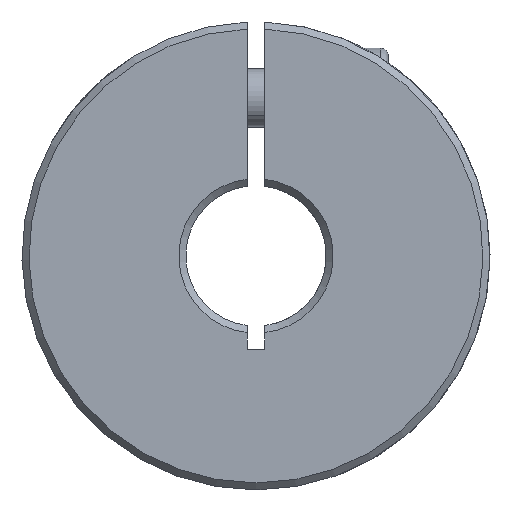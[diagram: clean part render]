
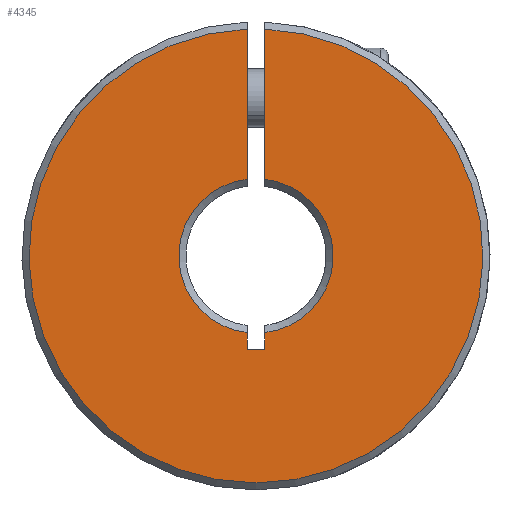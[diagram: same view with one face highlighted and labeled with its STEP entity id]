
A CAD part, front view. The second image highlights one B-rep face of the part: STEP entity #4345.
In plain terms, the highlighted planar face has unit normal (0, -1, 0).
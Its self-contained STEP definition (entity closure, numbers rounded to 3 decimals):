
#13 = VERTEX_POINT ( 'NONE', #1708 ) ;
#70 = AXIS2_PLACEMENT_3D ( 'NONE', #1586, #2163, #168 ) ;
#168 = DIRECTION ( 'NONE',  ( 0., 0., 1. ) ) ;
#176 = EDGE_CURVE ( 'NONE', #885, #1938, #5689, .T. ) ;
#249 = ORIENTED_EDGE ( 'NONE', *, *, #3473, .T. ) ;
#291 = ORIENTED_EDGE ( 'NONE', *, *, #5237, .T. ) ;
#392 = CARTESIAN_POINT ( 'NONE',  ( -0.75, -25., -8. ) ) ;
#402 = CARTESIAN_POINT ( 'NONE',  ( 0., -25., 0. ) ) ;
#464 = VERTEX_POINT ( 'NONE', #1106 ) ;
#588 = DIRECTION ( 'NONE',  ( 0., 0., 1. ) ) ;
#845 = VERTEX_POINT ( 'NONE', #4205 ) ;
#885 = VERTEX_POINT ( 'NONE', #1126 ) ;
#975 = EDGE_CURVE ( 'NONE', #464, #1183, #5548, .T. ) ;
#1021 = ORIENTED_EDGE ( 'NONE', *, *, #2916, .T. ) ;
#1106 = CARTESIAN_POINT ( 'NONE',  ( 0.75, -25., -8. ) ) ;
#1126 = CARTESIAN_POINT ( 'NONE',  ( -0.75, -25., -6.557 ) ) ;
#1148 = VECTOR ( 'NONE', #5105, 1000. ) ;
#1183 = VERTEX_POINT ( 'NONE', #392 ) ;
#1222 = DIRECTION ( 'NONE',  ( 0., 0., 1. ) ) ;
#1229 = AXIS2_PLACEMENT_3D ( 'NONE', #1365, #2311, #2337 ) ;
#1365 = CARTESIAN_POINT ( 'NONE',  ( 0., -25., 0. ) ) ;
#1466 = ORIENTED_EDGE ( 'NONE', *, *, #3504, .T. ) ;
#1504 = CARTESIAN_POINT ( 'NONE',  ( 0.75, -25., -8. ) ) ;
#1520 = CARTESIAN_POINT ( 'NONE',  ( -0.75, -25., -8. ) ) ;
#1555 = ORIENTED_EDGE ( 'NONE', *, *, #4757, .T. ) ;
#1586 = CARTESIAN_POINT ( 'NONE',  ( 0., -25., 0. ) ) ;
#1625 = VECTOR ( 'NONE', #4600, 1000. ) ;
#1701 = VECTOR ( 'NONE', #5239, 1000. ) ;
#1708 = CARTESIAN_POINT ( 'NONE',  ( 0.75, -25., 6.557 ) ) ;
#1721 = PLANE ( 'NONE',  #2974 ) ;
#1730 = EDGE_CURVE ( 'NONE', #845, #13, #2792, .T. ) ;
#1938 = VERTEX_POINT ( 'NONE', #4975 ) ;
#2022 = LINE ( 'NONE', #1520, #4288 ) ;
#2157 = ORIENTED_EDGE ( 'NONE', *, *, #1730, .T. ) ;
#2163 = DIRECTION ( 'NONE',  ( 0., 1., 0. ) ) ;
#2311 = DIRECTION ( 'NONE',  ( 0., -1., 0. ) ) ;
#2337 = DIRECTION ( 'NONE',  ( 0., 0., 1. ) ) ;
#2367 = CARTESIAN_POINT ( 'NONE',  ( -0.75, -25., -8. ) ) ;
#2595 = ORIENTED_EDGE ( 'NONE', *, *, #975, .T. ) ;
#2721 = DIRECTION ( 'NONE',  ( 0., 1., 0. ) ) ;
#2792 = LINE ( 'NONE', #3366, #1625 ) ;
#2916 = EDGE_CURVE ( 'NONE', #13, #3788, #4927, .T. ) ;
#2974 = AXIS2_PLACEMENT_3D ( 'NONE', #402, #2721, #1222 ) ;
#3008 = CARTESIAN_POINT ( 'NONE',  ( 0.75, -25., -6.557 ) ) ;
#3366 = CARTESIAN_POINT ( 'NONE',  ( 0.75, -25., -8. ) ) ;
#3473 = EDGE_CURVE ( 'NONE', #1938, #5742, #2022, .T. ) ;
#3480 = LINE ( 'NONE', #1504, #1148 ) ;
#3488 = VECTOR ( 'NONE', #3777, 1000. ) ;
#3504 = EDGE_CURVE ( 'NONE', #1183, #885, #4706, .T. ) ;
#3505 = DIRECTION ( 'NONE',  ( 0., 1., 0. ) ) ;
#3527 = CIRCLE ( 'NONE', #1229, 19.4 ) ;
#3560 = CARTESIAN_POINT ( 'NONE',  ( -0.75, -25., 19.385 ) ) ;
#3777 = DIRECTION ( 'NONE',  ( -1., 0., 0. ) ) ;
#3788 = VERTEX_POINT ( 'NONE', #3008 ) ;
#3873 = CARTESIAN_POINT ( 'NONE',  ( -0.75, -25., -8. ) ) ;
#3920 = DIRECTION ( 'NONE',  ( 0., 0., 1. ) ) ;
#4205 = CARTESIAN_POINT ( 'NONE',  ( 0.75, -25., 19.385 ) ) ;
#4288 = VECTOR ( 'NONE', #588, 1000. ) ;
#4345 = ADVANCED_FACE ( 'NONE', ( #4976 ), #1721, .F. ) ;
#4600 = DIRECTION ( 'NONE',  ( 0., 0., -1. ) ) ;
#4649 = AXIS2_PLACEMENT_3D ( 'NONE', #4744, #3505, #3920 ) ;
#4706 = LINE ( 'NONE', #3873, #1701 ) ;
#4744 = CARTESIAN_POINT ( 'NONE',  ( 0., -25., 0. ) ) ;
#4757 = EDGE_CURVE ( 'NONE', #5742, #845, #3527, .T. ) ;
#4927 = CIRCLE ( 'NONE', #4649, 6.6 ) ;
#4975 = CARTESIAN_POINT ( 'NONE',  ( -0.75, -25., 6.557 ) ) ;
#4976 = FACE_OUTER_BOUND ( 'NONE', #5141, .T. ) ;
#5105 = DIRECTION ( 'NONE',  ( 0., 0., -1. ) ) ;
#5141 = EDGE_LOOP ( 'NONE', ( #2157, #1021, #291, #2595, #1466, #5636, #249, #1555 ) ) ;
#5237 = EDGE_CURVE ( 'NONE', #3788, #464, #3480, .T. ) ;
#5239 = DIRECTION ( 'NONE',  ( 0., 0., 1. ) ) ;
#5548 = LINE ( 'NONE', #2367, #3488 ) ;
#5636 = ORIENTED_EDGE ( 'NONE', *, *, #176, .T. ) ;
#5689 = CIRCLE ( 'NONE', #70, 6.6 ) ;
#5742 = VERTEX_POINT ( 'NONE', #3560 ) ;
